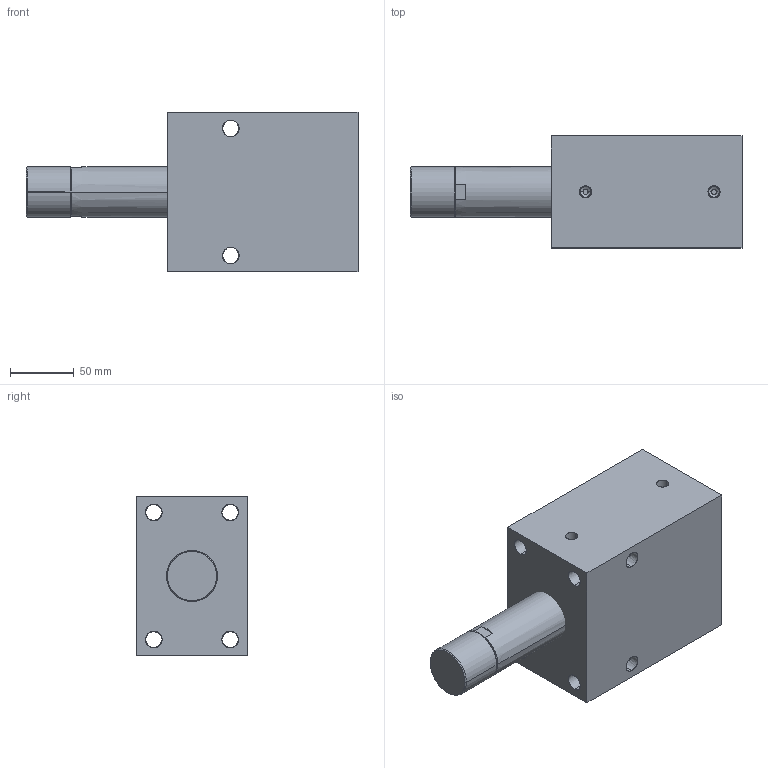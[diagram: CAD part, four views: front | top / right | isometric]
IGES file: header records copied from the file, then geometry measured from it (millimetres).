
Start section: SolidWorks IGES file using analytic representation for surfaces
Global section: file name: C:\Documents and Settings\rajib\Desktop\Rajib\BLOCK CYLINDER HYDRAULIC\0601-0606\IGS 0601-0608\0605.IGS; native system: SolidWorks 2007; preprocessor: SolidWorks 2007; author: rajib; date: 110121.105417; units: millimetre
Bounding box: 261 x 88 x 125 mm (x, y, z)
Surface area: 136131.3 mm2 (no closed solid volume)
Topology: 0 solids, 0 shells, 76 faces, 1856 edges, 1856 vertices
Faces by surface type: revolution 54, bspline 22
